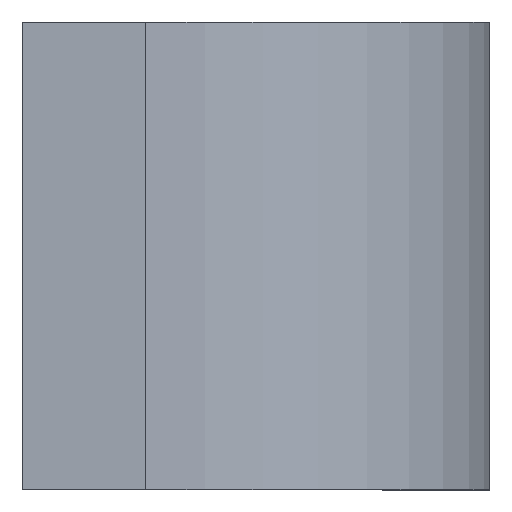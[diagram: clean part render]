
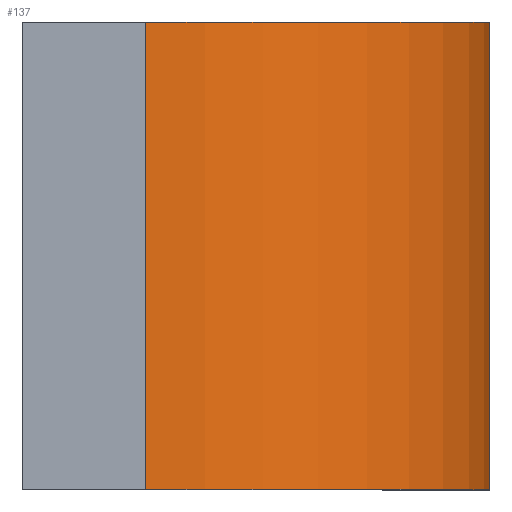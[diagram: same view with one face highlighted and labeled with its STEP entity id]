
A CAD part, top view. The second image highlights one B-rep face of the part: STEP entity #137.
In plain terms, the highlighted cylindrical face has radius 7365.59 mm (diameter 14731.2 mm), a partial arc.
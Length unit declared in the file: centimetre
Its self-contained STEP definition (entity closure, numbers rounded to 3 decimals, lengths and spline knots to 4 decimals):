
#16 = CARTESIAN_POINT ( 'NONE',  ( 263.441, 1000., 263.441 ) ) ;
#21 = LINE ( 'NONE', #150, #121 ) ;
#25 = DIRECTION ( 'NONE',  ( 0., -1., 0. ) ) ;
#42 = EDGE_CURVE ( 'NONE', #160, #220, #21, .T. ) ;
#58 = VERTEX_POINT ( 'NONE', #282 ) ;
#60 = AXIS2_PLACEMENT_3D ( 'NONE', #95, #171, #147 ) ;
#95 = CARTESIAN_POINT ( 'NONE',  ( 263.441, 0., 263.441 ) ) ;
#106 = CARTESIAN_POINT ( 'NONE',  ( 1000., 1000., 263.441 ) ) ;
#120 = CYLINDRICAL_SURFACE ( 'NONE', #60, 736.559 ) ;
#121 = VECTOR ( 'NONE', #245, 100. ) ;
#128 = EDGE_CURVE ( 'NONE', #220, #218, #166, .T. ) ;
#137 = ADVANCED_FACE ( 'NONE', ( #251 ), #120, .T. ) ;
#145 = VECTOR ( 'NONE', #210, 100. ) ;
#147 = DIRECTION ( 'NONE',  ( 0., 0., -1. ) ) ;
#150 = CARTESIAN_POINT ( 'NONE',  ( 263.441, 1000., 1000. ) ) ;
#159 = CARTESIAN_POINT ( 'NONE',  ( 263.441, 1000., 1000. ) ) ;
#160 = VERTEX_POINT ( 'NONE', #226 ) ;
#165 = ORIENTED_EDGE ( 'NONE', *, *, #128, .F. ) ;
#166 = CIRCLE ( 'NONE', #209, 736.559 ) ;
#169 = ORIENTED_EDGE ( 'NONE', *, *, #290, .F. ) ;
#171 = DIRECTION ( 'NONE',  ( 0., -1., 0. ) ) ;
#180 = CARTESIAN_POINT ( 'NONE',  ( 263.441, 0., 263.441 ) ) ;
#202 = DIRECTION ( 'NONE',  ( 0., 0., -1. ) ) ;
#209 = AXIS2_PLACEMENT_3D ( 'NONE', #16, #227, #202 ) ;
#210 = DIRECTION ( 'NONE',  ( 0., -1., 0. ) ) ;
#213 = AXIS2_PLACEMENT_3D ( 'NONE', #180, #25, #337 ) ;
#218 = VERTEX_POINT ( 'NONE', #106 ) ;
#220 = VERTEX_POINT ( 'NONE', #159 ) ;
#226 = CARTESIAN_POINT ( 'NONE',  ( 263.441, 0., 1000. ) ) ;
#227 = DIRECTION ( 'NONE',  ( 0., 1., 0. ) ) ;
#245 = DIRECTION ( 'NONE',  ( 0., 1., 0. ) ) ;
#251 = FACE_OUTER_BOUND ( 'NONE', #257, .T. ) ;
#257 = EDGE_LOOP ( 'NONE', ( #169, #298, #165, #276 ) ) ;
#259 = LINE ( 'NONE', #289, #145 ) ;
#276 = ORIENTED_EDGE ( 'NONE', *, *, #42, .F. ) ;
#282 = CARTESIAN_POINT ( 'NONE',  ( 1000., 0., 263.441 ) ) ;
#285 = EDGE_CURVE ( 'NONE', #218, #58, #259, .T. ) ;
#289 = CARTESIAN_POINT ( 'NONE',  ( 1000., 0., 263.441 ) ) ;
#290 = EDGE_CURVE ( 'NONE', #58, #160, #319, .T. ) ;
#298 = ORIENTED_EDGE ( 'NONE', *, *, #285, .F. ) ;
#319 = CIRCLE ( 'NONE', #213, 736.559 ) ;
#337 = DIRECTION ( 'NONE',  ( 0., 0., 1. ) ) ;
